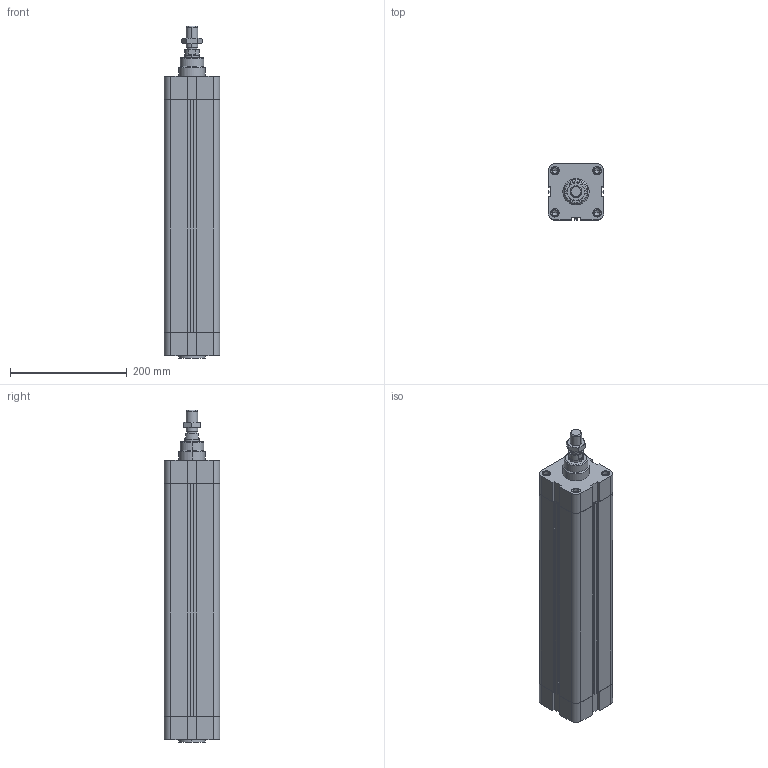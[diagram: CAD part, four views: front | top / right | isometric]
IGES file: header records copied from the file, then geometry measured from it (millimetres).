
Global section: file name: No Iges File Name specified; native system: Autodesk Inventor 2010; preprocessor: AutoDesk Inventor Iges Exporter R2010; author: rivolro1; date: 20090707.103445; units: millimetre
Bounding box: 95.5 x 95.5 x 568 mm (x, y, z)
Volume: 2685190.3 mm3; surface area: 427773.2 mm2
Topology: 5 solids, 5 shells, 290 faces, 694 edges, 440 vertices
Faces by surface type: plane 120, bspline 74, cylinder 40, revolution 34, cone 20, torus 2
